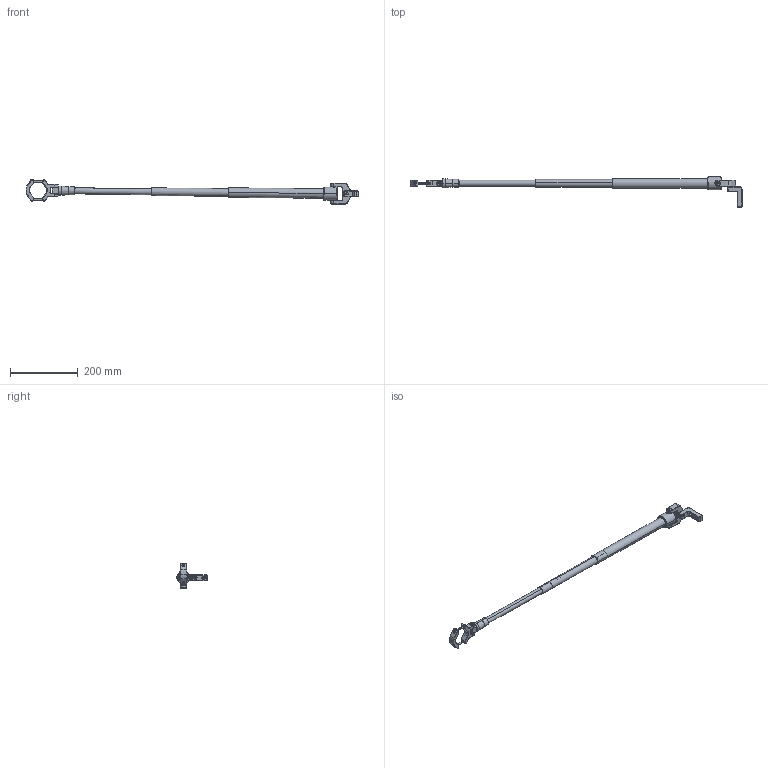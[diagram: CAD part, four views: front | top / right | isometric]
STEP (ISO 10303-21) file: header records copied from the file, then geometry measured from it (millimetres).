
FILE_DESCRIPTION (( 'STEP AP214' ), '1' );
FILE_NAME ('CAR281 aperto.STEP', '2013-09-02T07:12:28', ( '' ), ( '' ), 'SwSTEP 2.0', 'SolidWorks 2013', '' );
FILE_SCHEMA (( 'AUTOMOTIVE_DESIGN' ));
Length unit declared in the file: millimetre
Products named in the file (1): CAR281 aperto
Bounding box: 977.07 x 89 x 72.65 mm (x, y, z)
Volume: 234811.5 mm3; surface area: 192439.4 mm2
Topology: 16 solids, 16 shells, 481 faces, 1078 edges, 655 vertices
Faces by surface type: plane 197, cylinder 165, cone 119
Entity records: 19306 total; most frequent: CARTESIAN_POINT 2845, DIRECTION 2402, ORIENTED_EDGE 2152, EDGE_CURVE 1076, AXIS2_PLACEMENT_3D 890, VERTEX_POINT 655, LINE 622, VECTOR 622
